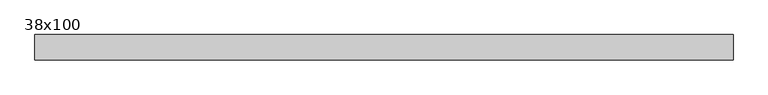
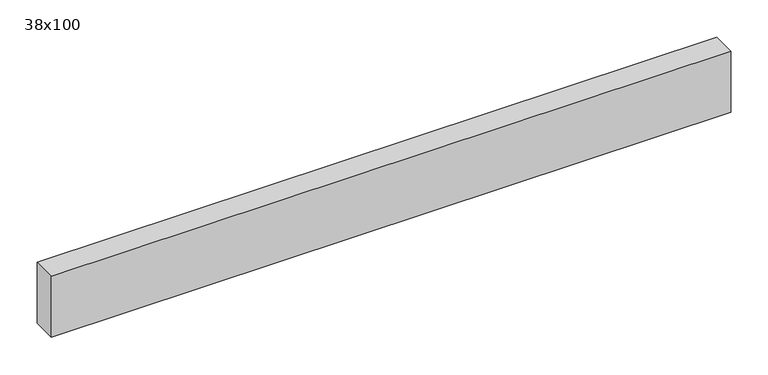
"""IFC4 building model written with IfcOpenShell, lengths in millimetres: beam geometry, Poutre - Bois de construction de dimensions courantes : 38x100."""

from ifc_helpers import new_model, si_unit, frame, origin, place, context, project, spatial, polyline, outline, extrude, source, transform, mapped, element, save


def beam_38x100_1260750a(model_context):
    return source(origin(), model_context, "Body", "SweptSolid", [
        extrude(outline(polyline([(519.0, 19.05), (519.0, -19.05), (-533.0, -19.05), (-533.0, 19.05), (519.0, 19.05)])), frame((0.0, 0.0, -50.0), z_axis=(0.0, 0.0, 1.0), x_axis=(1.0, 0.0, 0.0)), (0.0, 0.0, 1.0), 100.0),
    ])


if __name__ == "__main__":
    model = new_model("IFC4")
    model_context = context("Model", 3, world=origin())
    ifc_project = project(units=[si_unit("LENGTHUNIT", "METRE", prefix="MILLI")], contexts=[model_context])
    site = spatial("IfcSite", under=ifc_project)
    building = spatial("IfcBuilding", under=site)
    placement = place(None, origin())
    beam_38x100_shape = beam_38x100_1260750a(model_context)
    element("IfcBeam", 1, ObjectType="Poutre - Bois de construction de dimensions courantes : 38x100", at=placement, inside=building, context=model_context, shape_type="MappedRepresentation", body=[
        mapped(beam_38x100_shape, transform((0.0, 0.0, 0.0), x_axis=(1.0, 0.0, 0.0), y_axis=(0.0, 1.0, 0.0), z_axis=(0.0, 0.0, 1.0))),
    ])
    save(model, "model.ifc")
